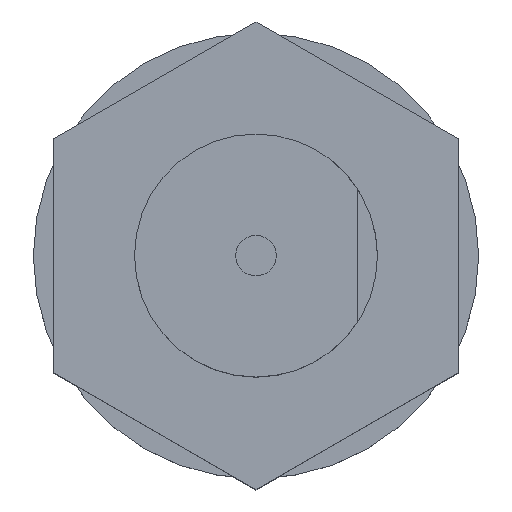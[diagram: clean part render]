
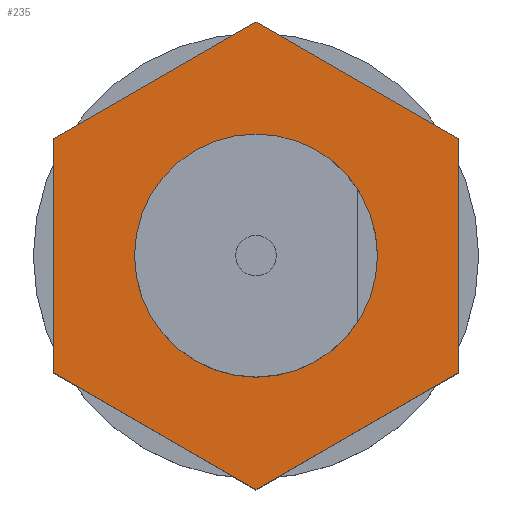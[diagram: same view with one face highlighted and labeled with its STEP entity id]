
A CAD part, top view. The second image highlights one B-rep face of the part: STEP entity #235.
In plain terms, the highlighted planar face has unit normal (0, 0, 1) as drawn and (-1, 0, 0) by its records, which use the part's own axes.
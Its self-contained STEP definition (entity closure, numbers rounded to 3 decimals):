
#224 = EDGE_CURVE ( 'NONE', #225, #226, #867, .T. ) ;
#225 = VERTEX_POINT ( 'NONE', #862 ) ;
#226 = VERTEX_POINT ( 'NONE', #861 ) ;
#235 = ADVANCED_FACE ( 'NONE', ( #911, #910 ), #909, .F. ) ;
#236 = EDGE_LOOP ( 'NONE', ( #289, #293, #296, #299, #302, #275 ) ) ;
#274 = VERTEX_POINT ( 'NONE', #974 ) ;
#275 = ORIENTED_EDGE ( 'NONE', *, *, #276, .T. ) ;
#276 = EDGE_CURVE ( 'NONE', #274, #291, #973, .T. ) ;
#277 = EDGE_LOOP ( 'NONE', ( #278, #279 ) ) ;
#278 = ORIENTED_EDGE ( 'NONE', *, *, #224, .F. ) ;
#279 = ORIENTED_EDGE ( 'NONE', *, *, #280, .F. ) ;
#280 = EDGE_CURVE ( 'NONE', #226, #225, #969, .T. ) ;
#289 = ORIENTED_EDGE ( 'NONE', *, *, #290, .T. ) ;
#290 = EDGE_CURVE ( 'NONE', #291, #292, #1013, .T. ) ;
#291 = VERTEX_POINT ( 'NONE', #1009 ) ;
#292 = VERTEX_POINT ( 'NONE', #1008 ) ;
#293 = ORIENTED_EDGE ( 'NONE', *, *, #294, .T. ) ;
#294 = EDGE_CURVE ( 'NONE', #292, #295, #1007, .T. ) ;
#295 = VERTEX_POINT ( 'NONE', #1003 ) ;
#296 = ORIENTED_EDGE ( 'NONE', *, *, #297, .T. ) ;
#297 = EDGE_CURVE ( 'NONE', #295, #298, #1002, .T. ) ;
#298 = VERTEX_POINT ( 'NONE', #998 ) ;
#299 = ORIENTED_EDGE ( 'NONE', *, *, #300, .T. ) ;
#300 = EDGE_CURVE ( 'NONE', #298, #301, #997, .T. ) ;
#301 = VERTEX_POINT ( 'NONE', #993 ) ;
#302 = ORIENTED_EDGE ( 'NONE', *, *, #303, .T. ) ;
#303 = EDGE_CURVE ( 'NONE', #301, #274, #992, .T. ) ;
#861 = CARTESIAN_POINT ( 'NONE',  ( 3., 0., 3. ) ) ;
#862 = CARTESIAN_POINT ( 'NONE',  ( 3., 0., -3. ) ) ;
#863 = DIRECTION ( 'NONE',  ( 0., 0., 1. ) ) ;
#864 = DIRECTION ( 'NONE',  ( -1., 0., 0. ) ) ;
#865 = CARTESIAN_POINT ( 'NONE',  ( 3., 0., 0. ) ) ;
#866 = AXIS2_PLACEMENT_3D ( 'NONE', #865, #864, #863 ) ;
#867 = CIRCLE ( 'NONE', #866, 3. ) ;
#905 = DIRECTION ( 'NONE',  ( 0., 0., -1. ) ) ;
#906 = DIRECTION ( 'NONE',  ( 1., 0., 0. ) ) ;
#907 = CARTESIAN_POINT ( 'NONE',  ( 3., 10., 0. ) ) ;
#908 = AXIS2_PLACEMENT_3D ( 'NONE', #907, #906, #905 ) ;
#909 = PLANE ( 'NONE',  #908 ) ;
#910 = FACE_BOUND ( 'NONE', #277, .T. ) ;
#911 = FACE_OUTER_BOUND ( 'NONE', #236, .T. ) ;
#965 = DIRECTION ( 'NONE',  ( 0., 0., 1. ) ) ;
#966 = DIRECTION ( 'NONE',  ( -1., 0., 0. ) ) ;
#967 = CARTESIAN_POINT ( 'NONE',  ( 3., 0., 0. ) ) ;
#968 = AXIS2_PLACEMENT_3D ( 'NONE', #967, #966, #965 ) ;
#969 = CIRCLE ( 'NONE', #968, 3. ) ;
#970 = DIRECTION ( 'NONE',  ( 0., 0., -1. ) ) ;
#971 = VECTOR ( 'NONE', #970, 1000. ) ;
#972 = CARTESIAN_POINT ( 'NONE',  ( 3., 5., 2.887 ) ) ;
#973 = LINE ( 'NONE', #972, #971 ) ;
#974 = CARTESIAN_POINT ( 'NONE',  ( 3., 5., 2.887 ) ) ;
#989 = DIRECTION ( 'NONE',  ( 0., 0.866, -0.5 ) ) ;
#990 = VECTOR ( 'NONE', #989, 1000. ) ;
#991 = CARTESIAN_POINT ( 'NONE',  ( 3., 0., 5.774 ) ) ;
#992 = LINE ( 'NONE', #991, #990 ) ;
#993 = CARTESIAN_POINT ( 'NONE',  ( 3., 0., 5.774 ) ) ;
#994 = DIRECTION ( 'NONE',  ( 0., 0.866, 0.5 ) ) ;
#995 = VECTOR ( 'NONE', #994, 1000. ) ;
#996 = CARTESIAN_POINT ( 'NONE',  ( 3., -5., 2.887 ) ) ;
#997 = LINE ( 'NONE', #996, #995 ) ;
#998 = CARTESIAN_POINT ( 'NONE',  ( 3., -5., 2.887 ) ) ;
#999 = DIRECTION ( 'NONE',  ( 0., 0., 1. ) ) ;
#1000 = VECTOR ( 'NONE', #999, 1000. ) ;
#1001 = CARTESIAN_POINT ( 'NONE',  ( 3., -5., -2.887 ) ) ;
#1002 = LINE ( 'NONE', #1001, #1000 ) ;
#1003 = CARTESIAN_POINT ( 'NONE',  ( 3., -5., -2.887 ) ) ;
#1004 = DIRECTION ( 'NONE',  ( 0., -0.866, 0.5 ) ) ;
#1005 = VECTOR ( 'NONE', #1004, 1000. ) ;
#1006 = CARTESIAN_POINT ( 'NONE',  ( 3., 0., -5.774 ) ) ;
#1007 = LINE ( 'NONE', #1006, #1005 ) ;
#1008 = CARTESIAN_POINT ( 'NONE',  ( 3., 0., -5.774 ) ) ;
#1009 = CARTESIAN_POINT ( 'NONE',  ( 3., 5., -2.887 ) ) ;
#1010 = DIRECTION ( 'NONE',  ( 0., -0.866, -0.5 ) ) ;
#1011 = VECTOR ( 'NONE', #1010, 1000. ) ;
#1012 = CARTESIAN_POINT ( 'NONE',  ( 3., 5., -2.887 ) ) ;
#1013 = LINE ( 'NONE', #1012, #1011 ) ;
